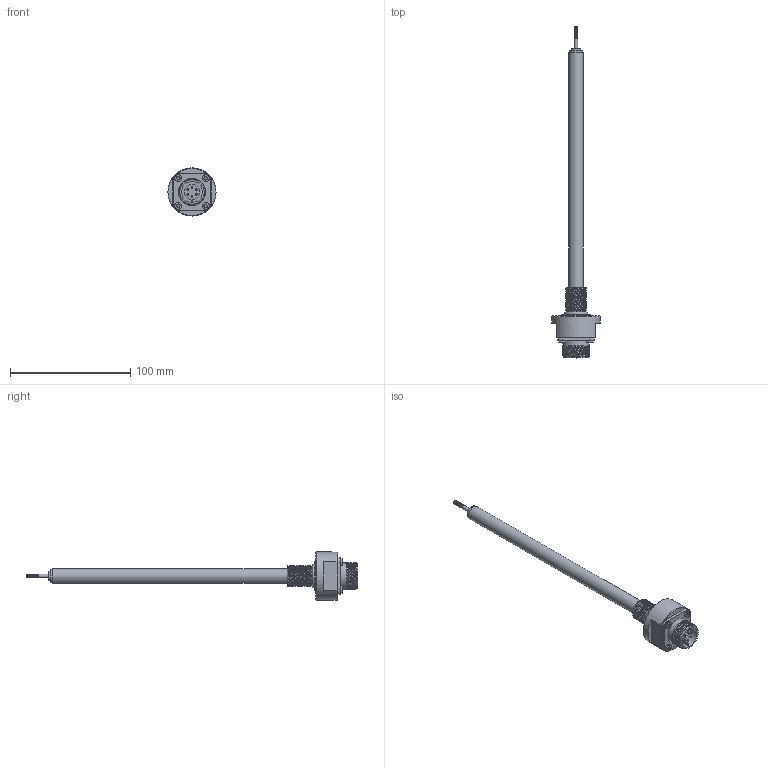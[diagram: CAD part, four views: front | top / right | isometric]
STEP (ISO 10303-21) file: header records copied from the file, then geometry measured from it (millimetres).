
FILE_DESCRIPTION( ( 'Unknown' ), '1' );
FILE_NAME( 'N:/Engineering/CAD/LVDT/HYD/Kunden-3D-Modell/SM100-HYD-M-18-S.stp', 'Unknown', ( 'Unknown' ), ( 'Unknown' ), 'PSStep 17.0.49', 'Unknown', ' ' );
FILE_SCHEMA( ( 'AUTOMOTIVE_DESIGN { 1 0 10303 214 1 1 1 1 }' ) );
Length unit declared in the file: millimetre
Products named in the file (9): Assem1; Endkappe; Innenrohr_SM5-HYD; Kernverlängerung_SM5-HYD; SM-HYD-Flansch_M18_vereinfacht; O-Ring_15,4x2,1; MIL-Stecker_2; DIN7985_M3-6_Torx; Aussenrohr_SM100-HYD-M_vereinfacht
Assembly tree (11 placements, depth 2):
  Assem1
    Endkappe
    Innenrohr_SM5-HYD
    Kernverlängerung_SM5-HYD
    SM-HYD-Flansch_M18_vereinfacht
    O-Ring_15,4x2,1
    MIL-Stecker_2
    DIN7985_M3-6_Torx  x4
    Aussenrohr_SM100-HYD-M_vereinfacht
Bounding box: 40 x 275.9 x 40 mm (x, y, z)
Volume: 54376.2 mm3; surface area: 26370.7 mm2
Topology: 11 solids, 11 shells, 255 faces, 589 edges, 385 vertices
Faces by surface type: plane 132, cylinder 82, cone 22, bspline 14, sphere 4, torus 1
Full cylindrical faces by diameter (mm): 1.4 x6, 1.6 x6, 2.013 x1, 2.4 x1, 2.5 x8, 3 x9, 4 x1, 6 x6, 8 x1, 10 x1, 11 x2, 12 x3, 13 x1, 15.8 x1, 17.6 x1, 18.8 x1, 20.2 x1, 22.3 x7, 24 x1, 40 x1
Entity records: 13563 total; most frequent: CARTESIAN_POINT 8176, DIRECTION 792, ORIENTED_EDGE 656, AXIS2_PLACEMENT_3D 336, EDGE_CURVE 328, EDGE_LOOP 289, VERTEX_POINT 255, FACE_OUTER_BOUND 236
